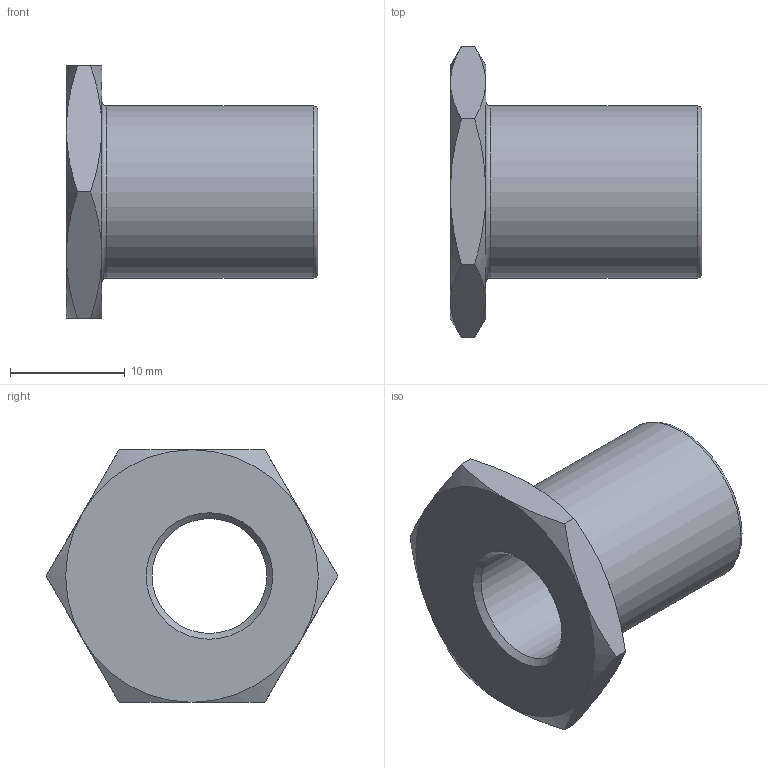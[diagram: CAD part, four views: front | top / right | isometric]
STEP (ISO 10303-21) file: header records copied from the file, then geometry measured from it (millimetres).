
FILE_DESCRIPTION( ( 'STEP AP214' ), '1' );
FILE_NAME( 'p:/temp/worker_36/temp/app_57_02019012316310736855206192d056f_000000_00_00_000000/format_0/M4PWBX.stp', '2019-01-23T15:31:08', ( '' ), ( '' ), ' ', 'PARTsolutions', ' ' );
FILE_SCHEMA( ( 'AUTOMOTIVE_DESIGN { 1 0 10303 214 1 1 1 1 }' ) );
Length unit declared in the file: inch
Products named in the file (1): _M4PWBX
Bounding box: 21.9 x 25.4 x 22 mm (x, y, z)
Volume: 2865.9 mm3; surface area: 2417.6 mm2
Topology: 1 solids, 1 shells, 27 faces, 56 edges, 32 vertices
Faces by surface type: cone 14, plane 9, torus 2, cylinder 2
Full cylindrical faces by diameter (mm): 10 x1, 14.99 x1
Entity records: 1004 total; most frequent: CARTESIAN_POINT 254, DIRECTION 102, ORIENTED_EDGE 100, EDGE_CURVE 50, AXIS2_PLACEMENT_3D 48, EDGE_LOOP 36, VERTEX_POINT 32, FACE_OUTER_BOUND 31
